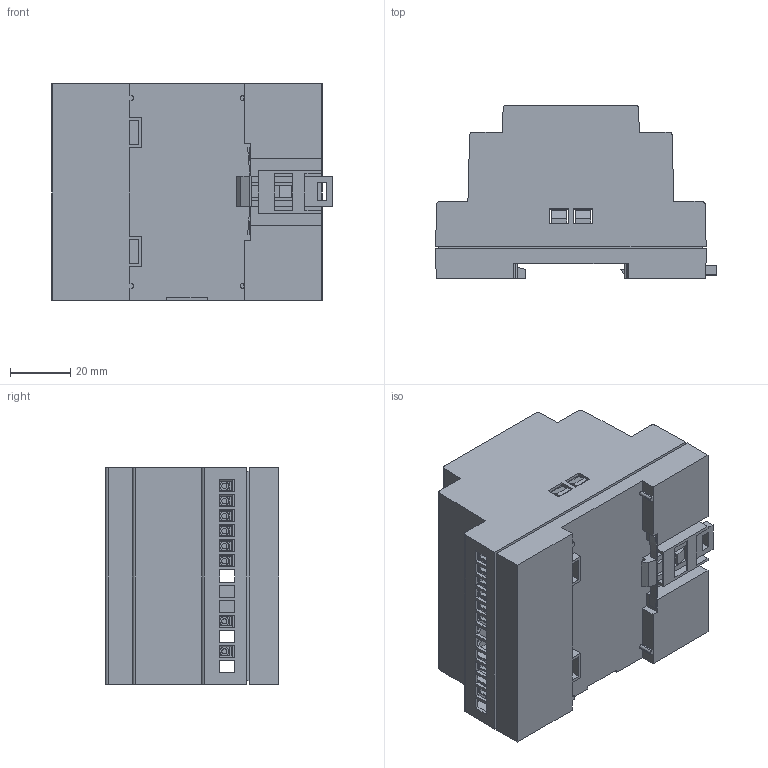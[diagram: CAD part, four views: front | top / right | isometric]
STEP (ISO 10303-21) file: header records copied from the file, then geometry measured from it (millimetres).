
FILE_DESCRIPTION (( 'STEP AP214' ), '1' );
FILE_NAME ('ﾓﾒ24ﾄ.STEP', '2015-06-07T10:23:35', ( 'Vika' ), ( '' ), 'SwSTEP 2.0', 'SolidWorks 2014', '' );
FILE_SCHEMA (( 'AUTOMOTIVE_DESIGN' ));
Length unit declared in the file: millimetre
Products named in the file (5): ÓÒ24Ä_Êëåììà_10õ9,8õ5ìì; ÓÒ24Ä_óò24Ä_øèëüäèê; ÓÒ24Ä_Êîðïóñ Ä; ﾓﾒ24ﾄ; ÓÒ24Ä_Çàùåëêà(Ä)
Assembly tree (18 placements, depth 2):
  ﾓﾒ24ﾄ
    ÓÒ24Ä_Êîðïóñ Ä
    ÓÒ24Ä_óò24Ä_øèëüäèê
    ÓÒ24Ä_Êëåììà_10õ9,8õ5ìì  x15
    ÓÒ24Ä_Çàùåëêà(Ä)
Bounding box: 93.41 x 57.61 x 72 mm (x, y, z)
Volume: 96670.5 mm3; surface area: 70078.4 mm2
Topology: 35 solids, 35 shells, 1884 faces, 4912 edges, 3254 vertices
Faces by surface type: plane 1522, cylinder 189, bspline 173
Entity records: 43293 total; most frequent: CARTESIAN_POINT 9324, ORIENTED_EDGE 6912, DIRECTION 5558, EDGE_CURVE 3456, LINE 2950, VECTOR 2950, VERTEX_POINT 2302, EDGE_LOOP 1518
